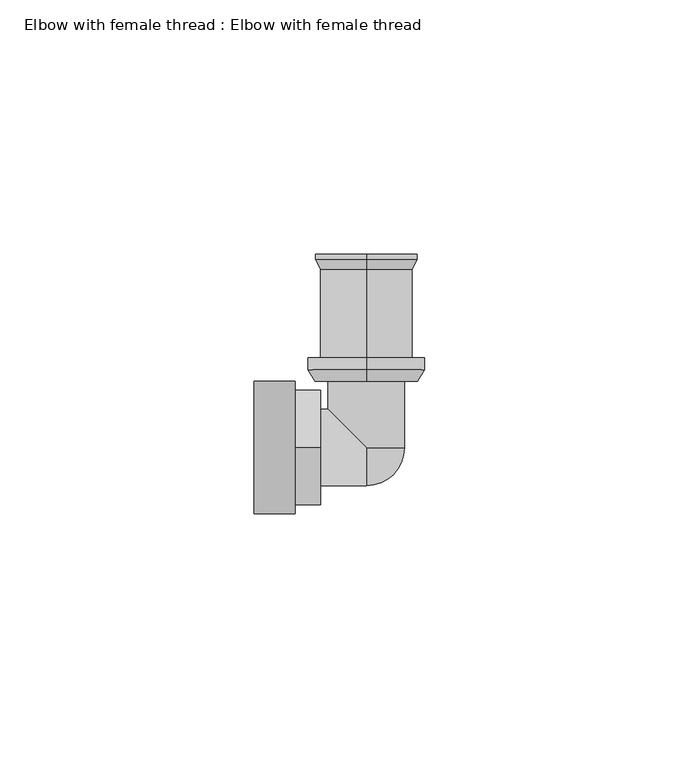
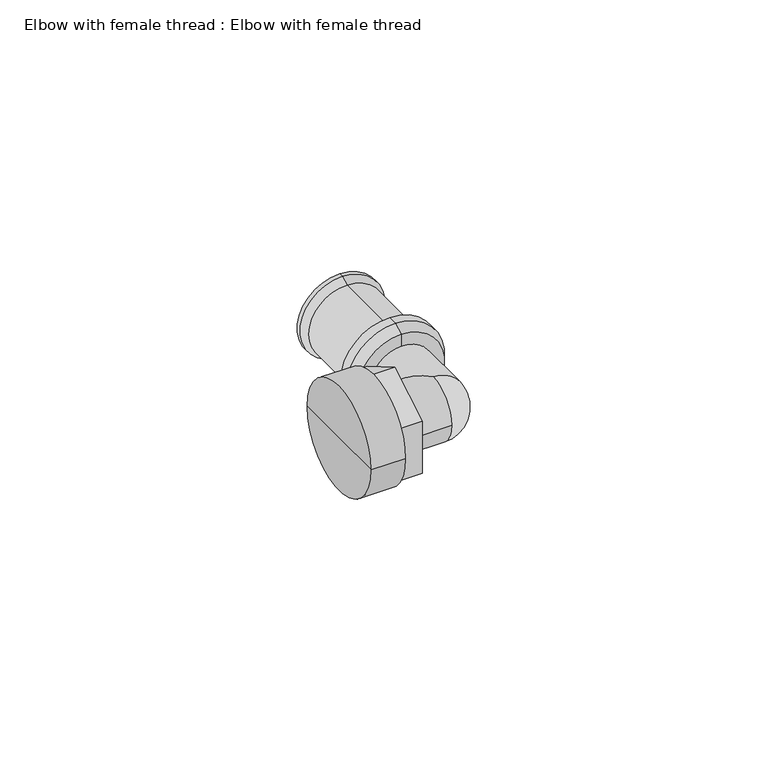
"""IFC4 building model written with IfcOpenShell, lengths in millimetres: pipe fitting geometry, Elbow with female thread : Elbow with female thread."""

from ifc_helpers import new_model, si_unit, point, frame, origin, place, context, project, spatial, polyline, circle_curve, ellipse_curve, trimmed, source, transform, mapped, element, save
from ifc_brep_helpers import plane_surface, cylinder_surface, revolved_surface, advanced_brep


def elbow_with_female_thread_elbow_with_female_thread_9fb55e06(model_context):
    return source(origin(), model_context, "Body", "AdvancedBrep", [
        advanced_brep(
        [(0.0, 13.0, 0.0), (0.0, 13.0, 10.1432269), (0.0, 13.0, -10.1432269), (0.0, 17.7, -11.5), (0.0, 17.7, 11.5), (0.0, 17.7, 0.0), (0.0, 15.35, -11.5), (0.0, 15.35, 11.5)],
        [
            (0, 1),
            (1, 2, circle_curve(frame((0.0, 13.0, 0.0), z_axis=(0.0, -1.0, 0.0), x_axis=(0.0, 0.0, 1.0)), 10.1432269)),
            (2, 0),
            (2, 1, circle_curve(frame((0.0, 13.0, 0.0), z_axis=(0.0, -1.0, 0.0), x_axis=(0.0, 0.0, 1.0)), 10.1432269)),
            (3, 4, circle_curve(frame((0.0, 17.7, 0.0), z_axis=(0.0, 1.0, 0.0), x_axis=(0.0, 0.0, 1.0)), 11.5)),
            (4, 5),
            (5, 3),
            (4, 3, circle_curve(frame((0.0, 17.7, 0.0), z_axis=(0.0, 1.0, 0.0), x_axis=(0.0, 0.0, 1.0)), 11.5)),
            (6, 7, circle_curve(frame((0.0, 15.35, 0.0), z_axis=(0.0, 1.0, 0.0), x_axis=(0.0, 0.0, 1.0)), 11.5)),
            (7, 4),
            (3, 6),
            (7, 6, circle_curve(frame((0.0, 15.35, 0.0), z_axis=(0.0, 1.0, 0.0), x_axis=(0.0, 0.0, 1.0)), 11.5)),
            (1, 7),
            (6, 2),
        ],
        [
            plane_surface(frame((0.0, 13.0, 0.0), z_axis=(0.0, -1.0, 0.0), x_axis=(0.0, 0.0, 1.0))),
            plane_surface(frame((0.0, 17.7, 0.0), z_axis=(0.0, 1.0, 0.0), x_axis=(0.0, 0.0, 1.0))),
            cylinder_surface(frame((0.0, 14.0, 0.0), z_axis=(0.0, -1.0, 0.0), x_axis=(0.0, 0.0, 1.0)), 11.5),
            revolved_surface(polyline([(0.0, 15.35, 11.5), (0.0, 13.0, 10.1432269)]), (0.0, 14.0, 0.0), (0.0, -1.0, 0.0)),
        ],
        [
            (0, [[1, 2, 3]]),
            (0, [[-3, 4, -1]]),
            (1, [[5, 6, 7]]),
            (1, [[8, -7, -6]]),
            (2, [[9, 10, -5, 11]]),
            (2, [[12, -11, -8, -10]]),
            (3, [[-2, 13, -9, 14]]),
            (3, [[-4, -14, -12, -13]]),
        ],
    ),
        advanced_brep(
        [(0.0, 17.7, -9.0), (0.0, 17.7, 9.0), (0.0, 35.0, 9.0), (0.0, 35.0, -9.0), (0.0, 38.0, -10.0), (0.0, 38.0, 10.0), (0.0, 38.0, 0.0), (0.0, 17.7, 0.0), (0.0, 37.0, -10.0), (0.0, 37.0, 10.0)],
        [
            (0, 1, circle_curve(frame((0.0, 17.7, 0.0), z_axis=(0.0, 1.0, 0.0), x_axis=(0.0, 0.0, 1.0)), 9.0)),
            (1, 2),
            (2, 3, circle_curve(frame((0.0, 35.0, 0.0), z_axis=(0.0, -1.0, 0.0), x_axis=(0.0, 0.0, 1.0)), 9.0)),
            (3, 0),
            (1, 0, circle_curve(frame((0.0, 17.7, 0.0), z_axis=(0.0, 1.0, 0.0), x_axis=(0.0, 0.0, 1.0)), 9.0)),
            (3, 2, circle_curve(frame((0.0, 35.0, 0.0), z_axis=(0.0, -1.0, 0.0), x_axis=(0.0, 0.0, 1.0)), 9.0)),
            (4, 5, circle_curve(frame((0.0, 38.0, 0.0), z_axis=(0.0, 1.0, 0.0), x_axis=(0.0, 0.0, 1.0)), 10.0)),
            (5, 6),
            (6, 4),
            (5, 4, circle_curve(frame((0.0, 38.0, 0.0), z_axis=(0.0, 1.0, 0.0), x_axis=(0.0, 0.0, 1.0)), 10.0)),
            (7, 1),
            (0, 7),
            (8, 9, circle_curve(frame((0.0, 37.0, 0.0), z_axis=(0.0, 1.0, 0.0), x_axis=(0.0, 0.0, 1.0)), 10.0)),
            (9, 5),
            (4, 8),
            (9, 8, circle_curve(frame((0.0, 37.0, 0.0), z_axis=(0.0, 1.0, 0.0), x_axis=(0.0, 0.0, 1.0)), 10.0)),
            (2, 9),
            (8, 3),
        ],
        [
            cylinder_surface(frame((0.0, -1897.8038476, 0.0), z_axis=(0.0, -1.0, 0.0), x_axis=(0.0, 0.0, 1.0)), 9.0),
            plane_surface(frame((0.0, 38.0, 0.0), z_axis=(0.0, 1.0, 0.0), x_axis=(0.0, 0.0, 1.0))),
            plane_surface(frame((0.0, 17.7, 0.0), z_axis=(0.0, -1.0, 0.0), x_axis=(0.0, 0.0, 1.0))),
            cylinder_surface(frame((0.0, -1897.8038476, 0.0), z_axis=(0.0, -1.0, 0.0), x_axis=(0.0, 0.0, 1.0)), 10.0),
            revolved_surface(polyline([(0.0, 37.0, 10.0), (0.0, 35.0, 9.0)]), (0.0, -1897.8038476, 0.0), (0.0, -1.0, 0.0)),
        ],
        [
            (0, [[1, 2, 3, 4]]),
            (0, [[5, -4, 6, -2]]),
            (1, [[7, 8, 9]]),
            (1, [[10, -9, -8]]),
            (2, [[11, -1, 12]]),
            (2, [[-12, -5, -11]]),
            (3, [[13, 14, -7, 15]]),
            (3, [[16, -15, -10, -14]]),
            (4, [[-3, 17, -13, 18]]),
            (4, [[-6, -18, -16, -17]]),
        ],
    ),
        advanced_brep(
        [(-22.0703979, -13.0, 0.0), (-22.0703979, 13.0, 0.0), (-14.0, 13.0, 0.0), (-14.0, 11.2583302, -6.5), (-14.0, 0.0, -13.0), (-14.0, -11.2583302, -6.5), (-14.0, -13.0, 0.0), (-14.0, -11.2583302, 6.5), (-14.0, 0.0, 13.0), (-14.0, 11.2583302, 6.5), (-22.0703979, 0.0, 0.0), (-14.0, 11.2583302, 0.0), (-14.0, -11.2583302, 0.0), (-9.0, 11.2583302, 6.5), (-9.0, 0.0, 13.0), (-9.0, -11.2583302, 6.5), (-9.0, -11.2583302, -6.5), (-9.0, 0.0, -13.0), (-9.0, 11.2583302, -6.5), (-9.0, -7.5, 0.0), (-9.0, 7.5, 0.0), (-7.5, 7.5, 0.0), (0.0, -7.5, 0.0), (0.0, 0.0, 7.5), (0.0, 0.0, -7.5), (7.5, 14.0, 0.0), (-7.5, 14.0, 0.0), (7.5, 0.0, 0.0)],
        [
            (0, 1, circle_curve(frame((-22.0703979, 0.0, 0.0), z_axis=(1.0, 0.0, 0.0), x_axis=(0.0, 1.0, 0.0)), 13.0)),
            (1, 2),
            (2, 3, circle_curve(frame((-14.0, 0.0, 0.0), z_axis=(-1.0, 0.0, 0.0), x_axis=(0.0, 1.0, 0.0)), 13.0)),
            (3, 4, circle_curve(frame((-14.0, 0.0, 0.0), z_axis=(-1.0, 0.0, 0.0), x_axis=(0.0, 1.0, 0.0)), 13.0)),
            (4, 5, circle_curve(frame((-14.0, 0.0, 0.0), z_axis=(-1.0, 0.0, 0.0), x_axis=(0.0, 1.0, 0.0)), 13.0)),
            (5, 6, circle_curve(frame((-14.0, 0.0, 0.0), z_axis=(-1.0, 0.0, 0.0), x_axis=(0.0, 1.0, 0.0)), 13.0)),
            (6, 0),
            (1, 0, circle_curve(frame((-22.0703979, 0.0, 0.0), z_axis=(1.0, 0.0, 0.0), x_axis=(0.0, 1.0, 0.0)), 13.0)),
            (6, 7, circle_curve(frame((-14.0, 0.0, 0.0), z_axis=(-1.0, 0.0, 0.0), x_axis=(0.0, 1.0, 0.0)), 13.0)),
            (7, 8, circle_curve(frame((-14.0, 0.0, 0.0), z_axis=(-1.0, 0.0, 0.0), x_axis=(0.0, 1.0, 0.0)), 13.0)),
            (8, 9, circle_curve(frame((-14.0, 0.0, 0.0), z_axis=(-1.0, 0.0, 0.0), x_axis=(0.0, 1.0, 0.0)), 13.0)),
            (9, 2, circle_curve(frame((-14.0, 0.0, 0.0), z_axis=(-1.0, 0.0, 0.0), x_axis=(0.0, 1.0, 0.0)), 13.0)),
            (0, 10),
            (10, 1),
            (2, 11),
            (11, 3),
            (3, 4),
            (4, 5),
            (5, 12),
            (12, 6),
            (12, 7),
            (7, 8),
            (8, 9),
            (9, 11),
            (13, 14),
            (14, 15),
            (15, 16),
            (16, 17),
            (17, 18),
            (18, 13),
            (19, 20, circle_curve(frame((-9.0, 0.0, 0.0), z_axis=(-1.0, 0.0, 0.0), x_axis=(0.0, -1.0, 0.0)), 7.5)),
            (20, 19, circle_curve(frame((-9.0, 0.0, 0.0), z_axis=(-1.0, 0.0, 0.0), x_axis=(0.0, -1.0, 0.0)), 7.5)),
            (18, 3),
            (9, 13),
            (17, 4),
            (16, 5),
            (15, 7),
            (14, 8),
            (21, 20),
            (19, 22),
            (22, 23, circle_curve(frame((0.0, 0.0, 0.0), z_axis=(-1.0, 0.0, 0.0), x_axis=(0.0, -1.0, 0.0)), 7.5)),
            (23, 21, ellipse_curve(frame((0.0, 0.0, 0.0), z_axis=(-0.7071067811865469, -0.707106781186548, 0.0), x_axis=(0.7071067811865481, -0.7071067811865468, 0.0)), 10.6066017, 7.5)),
            (21, 24, ellipse_curve(frame((0.0, 0.0, 0.0), z_axis=(-0.7071067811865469, -0.707106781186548, 0.0), x_axis=(0.7071067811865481, -0.7071067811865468, 0.0)), 10.6066017, 7.5)),
            (24, 22, circle_curve(frame((0.0, 0.0, 0.0), z_axis=(-1.0, 0.0, 0.0), x_axis=(0.0, -1.0, 0.0)), 7.5)),
            (25, 26, circle_curve(frame((0.0, 14.0, 0.0), z_axis=(0.0, -1.0, 0.0), x_axis=(-1.0, 0.0, 0.0)), 7.5)),
            (26, 21),
            (23, 27, circle_curve(frame((0.0, 0.0, 0.0), z_axis=(0.0, 1.0, 0.0), x_axis=(-1.0, 0.0, 0.0)), 7.5)),
            (27, 25),
            (26, 25, circle_curve(frame((0.0, 14.0, 0.0), z_axis=(0.0, -1.0, 0.0), x_axis=(-1.0, 0.0, 0.0)), 7.5)),
            (27, 24, circle_curve(frame((0.0, 0.0, 0.0), z_axis=(0.0, 1.0, 0.0), x_axis=(-1.0, 0.0, 0.0)), 7.5)),
        ],
        [
            cylinder_surface(frame((0.0, 0.0, 0.0), z_axis=(-1.0, 0.0, 0.0), x_axis=(0.0, 1.0, 0.0)), 13.0),
            plane_surface(frame((-22.0703979, 0.0, 0.0), z_axis=(-1.0, 0.0, 0.0), x_axis=(0.0, 1.0, 0.0))),
            plane_surface(frame((-14.0, 0.0, 0.0), z_axis=(1.0, 0.0, 0.0), x_axis=(0.0, 1.0, 0.0))),
            plane_surface(frame((-9.0, 11.2583302, 6.5), z_axis=(1.0, 0.0, 0.0), x_axis=(0.0, 0.0, 1.0))),
            plane_surface(frame((-14.0, 11.2583302, 6.5), z_axis=(0.0, 1.0, 0.0), x_axis=(1.0, 0.0, 0.0))),
            plane_surface(frame((-14.0, 11.2583302, -6.5), z_axis=(0.0, 0.49999999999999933, -0.866025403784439), x_axis=(1.0, 0.0, 0.0))),
            plane_surface(frame((-14.0, 0.0, -13.0), z_axis=(0.0, -0.5000000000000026, -0.8660254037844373), x_axis=(1.0, 0.0, 0.0))),
            plane_surface(frame((-14.0, -11.2583302, -6.5), z_axis=(0.0, -1.0, 0.0), x_axis=(1.0, 0.0, 0.0))),
            plane_surface(frame((-14.0, -11.2583302, 6.5), z_axis=(0.0, -0.5000000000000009, 0.8660254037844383), x_axis=(1.0, 0.0, 0.0))),
            plane_surface(frame((-14.0, 0.0, 13.0), z_axis=(0.0, 0.5000000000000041, 0.8660254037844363), x_axis=(1.0, 0.0, 0.0))),
            cylinder_surface(frame((0.0, 0.0, 0.0), z_axis=(1.0, 0.0, 0.0), x_axis=(0.0, -1.0, 0.0)), 7.5),
            cylinder_surface(frame((0.0, 0.0, 0.0), z_axis=(0.0, -1.0, 0.0), x_axis=(-1.0, 0.0, 0.0)), 7.5),
            plane_surface(frame((0.0, 14.0, 0.0), z_axis=(0.0, 1.0, 0.0), x_axis=(0.0, 0.0, 1.0))),
            revolved_surface(trimmed(ellipse_curve(frame((0.0, 0.0, 0.0), z_axis=(0.0, -1.0, 0.0), x_axis=(1.0, 0.0, 0.0)), 7.5, 7.5), [point((0.0, 0.0, -7.5))], [point((7.5, 0.0, 0.0))], True, "CARTESIAN"), (0.0, 0.0, 0.0), (1.0, 0.0, 0.0)),
        ],
        [
            (0, [[1, 2, 3, 4, 5, 6, 7]]),
            (0, [[-2, 8, -7, 9, 10, 11, 12]]),
            (1, [[-1, 13, 14]]),
            (1, [[-8, -14, -13]]),
            (2, [[-3, 15, 16]]),
            (2, [[-4, 17]]),
            (2, [[-5, 18]]),
            (2, [[-6, 19, 20]]),
            (2, [[-9, -20, 21]]),
            (2, [[-10, 22]]),
            (2, [[-11, 23]]),
            (2, [[-12, 24, -15]]),
            (3, [[25, 26, 27, 28, 29, 30], [31, 32]]),
            (4, [[-30, 33, -16, -24, 34]]),
            (5, [[-29, 35, -17, -33]]),
            (6, [[-28, 36, -18, -35]]),
            (7, [[-27, 37, -21, -19, -36]]),
            (8, [[-26, 38, -22, -37]]),
            (9, [[-25, -34, -23, -38]]),
            (10, [[39, -31, 40, 41, 42]]),
            (10, [[-39, 43, 44, -40, -32]]),
            (11, [[45, 46, -42, 47, 48]]),
            (11, [[49, -48, 50, -43, -46]]),
            (12, [[-49, -45]]),
            (13, [[-47, -41, -44, -50]]),
        ],
    ),
    ])


if __name__ == "__main__":
    model = new_model("IFC4")
    model_context = context("Model", 3, world=origin())
    ifc_project = project(units=[si_unit("LENGTHUNIT", "METRE", prefix="MILLI")], contexts=[model_context])
    site = spatial("IfcSite", under=ifc_project)
    building = spatial("IfcBuilding", under=site)
    placement = place(None, origin())
    elbow_with_female_thread_elbow_with_female_thread_shape = elbow_with_female_thread_elbow_with_female_thread_9fb55e06(model_context)
    element("IfcPipeFitting", 1, ObjectType="Elbow with female thread : Elbow with female thread", at=placement, inside=building, context=model_context, shape_type="MappedRepresentation", body=[
        mapped(elbow_with_female_thread_elbow_with_female_thread_shape, transform((0.0, 0.0, 0.0), x_axis=(1.0, 0.0, 0.0), y_axis=(0.0, 1.0, 0.0), z_axis=(0.0, 0.0, 1.0))),
    ])
    save(model, "model.ifc")
